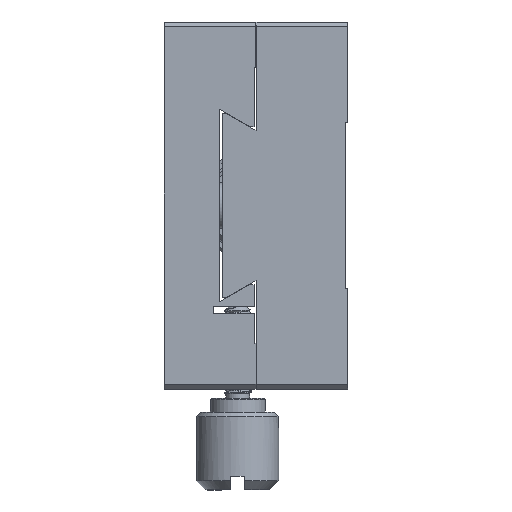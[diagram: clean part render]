
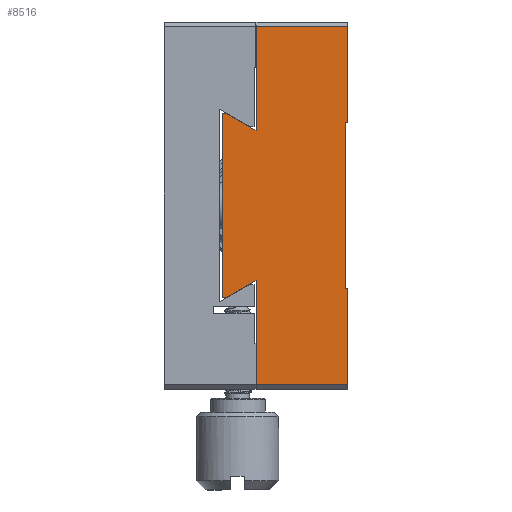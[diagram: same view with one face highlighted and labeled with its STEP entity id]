
A CAD part, left-side view. The second image highlights one B-rep face of the part: STEP entity #8516.
In plain terms, the highlighted planar face has unit normal (-1, 0, 0).
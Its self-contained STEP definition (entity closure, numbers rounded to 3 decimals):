
#95 = EDGE_CURVE ( 'NONE', #38840, #33420, #33971, .T. ) ;
#431 = VERTEX_POINT ( 'NONE', #36296 ) ;
#1727 = VERTEX_POINT ( 'NONE', #78016 ) ;
#1936 = ORIENTED_EDGE ( 'NONE', *, *, #9239, .F. ) ;
#2634 = DIRECTION ( 'NONE',  ( 0., -1., 0. ) ) ;
#2691 = CARTESIAN_POINT ( 'NONE',  ( -15.678, 47.056, 80.355 ) ) ;
#2862 = EDGE_CURVE ( 'NONE', #23326, #26054, #69943, .T. ) ;
#4754 = LINE ( 'NONE', #22639, #32809 ) ;
#5031 = CARTESIAN_POINT ( 'NONE',  ( -15.678, 60.756, 50.328 ) ) ;
#5414 = VECTOR ( 'NONE', #8645, 1000. ) ;
#5467 = EDGE_CURVE ( 'NONE', #46890, #74505, #49356, .T. ) ;
#6494 = VECTOR ( 'NONE', #8255, 1000. ) ;
#6893 = CARTESIAN_POINT ( 'NONE',  ( -15.678, 47.056, 40.855 ) ) ;
#8117 = DIRECTION ( 'NONE',  ( 0., 0., -1. ) ) ;
#8255 = DIRECTION ( 'NONE',  ( 0., -1., 0. ) ) ;
#8516 = ADVANCED_FACE ( 'NONE', ( #11186 ), #72626, .F. ) ;
#8645 = DIRECTION ( 'NONE',  ( 0., 1., 0. ) ) ;
#9239 = EDGE_CURVE ( 'NONE', #74566, #1727, #57409, .T. ) ;
#9386 = VERTEX_POINT ( 'NONE', #5031 ) ;
#11186 = FACE_OUTER_BOUND ( 'NONE', #33351, .T. ) ;
#13234 = CARTESIAN_POINT ( 'NONE',  ( -15.678, 60.236, 70.382 ) ) ;
#14065 = CARTESIAN_POINT ( 'NONE',  ( -15.678, 57.056, 68.545 ) ) ;
#14860 = LINE ( 'NONE', #63979, #34353 ) ;
#14920 = EDGE_CURVE ( 'NONE', #38840, #9386, #50820, .T. ) ;
#15261 = DIRECTION ( 'NONE',  ( 0., 0., -1. ) ) ;
#15423 = CARTESIAN_POINT ( 'NONE',  ( -15.678, 57.056, 52.164 ) ) ;
#17422 = DIRECTION ( 'NONE',  ( 0., 1., 0. ) ) ;
#18138 = ORIENTED_EDGE ( 'NONE', *, *, #5467, .F. ) ;
#18367 = VECTOR ( 'NONE', #38967, 1000. ) ;
#18621 = ORIENTED_EDGE ( 'NONE', *, *, #44867, .T. ) ;
#18690 = EDGE_CURVE ( 'NONE', #26054, #33420, #14860, .T. ) ;
#20664 = CARTESIAN_POINT ( 'NONE',  ( -15.678, 57.056, 79.855 ) ) ;
#20973 = LINE ( 'NONE', #56216, #5414 ) ;
#21373 = CARTESIAN_POINT ( 'NONE',  ( -15.678, 47.356, 69.355 ) ) ;
#22639 = CARTESIAN_POINT ( 'NONE',  ( -15.678, 47.356, 69.355 ) ) ;
#23326 = VERTEX_POINT ( 'NONE', #20664 ) ;
#23358 = LINE ( 'NONE', #64192, #46144 ) ;
#23499 = DIRECTION ( 'NONE',  ( 1., 0., 0. ) ) ;
#23747 = AXIS2_PLACEMENT_3D ( 'NONE', #36553, #23499, #65880 ) ;
#23752 = EDGE_CURVE ( 'NONE', #33791, #1727, #38024, .T. ) ;
#23933 = LINE ( 'NONE', #58413, #75170 ) ;
#25068 = VECTOR ( 'NONE', #8117, 1000. ) ;
#26054 = VERTEX_POINT ( 'NONE', #14065 ) ;
#28634 = CARTESIAN_POINT ( 'NONE',  ( -15.678, 57.056, 52.164 ) ) ;
#28960 = DIRECTION ( 'NONE',  ( 0., 0., -1. ) ) ;
#30024 = ORIENTED_EDGE ( 'NONE', *, *, #18690, .T. ) ;
#31180 = LINE ( 'NONE', #43429, #25068 ) ;
#31376 = VECTOR ( 'NONE', #54926, 1000. ) ;
#32083 = ORIENTED_EDGE ( 'NONE', *, *, #61227, .T. ) ;
#32627 = VECTOR ( 'NONE', #36225, 1000. ) ;
#32809 = VECTOR ( 'NONE', #28960, 1000. ) ;
#33351 = EDGE_LOOP ( 'NONE', ( #40457, #18138, #69517, #70987, #1936, #53929, #75059, #30024, #37225, #54180, #35098, #18621, #64933, #32083 ) ) ;
#33420 = VERTEX_POINT ( 'NONE', #13234 ) ;
#33626 = VERTEX_POINT ( 'NONE', #28634 ) ;
#33651 = DIRECTION ( 'NONE',  ( 0., 0., -1. ) ) ;
#33791 = VERTEX_POINT ( 'NONE', #65863 ) ;
#33971 = LINE ( 'NONE', #63285, #76662 ) ;
#34353 = VECTOR ( 'NONE', #51694, 1000. ) ;
#35098 = ORIENTED_EDGE ( 'NONE', *, *, #52170, .F. ) ;
#35464 = EDGE_CURVE ( 'NONE', #74566, #23326, #23358, .T. ) ;
#36225 = DIRECTION ( 'NONE',  ( 0., -1., 0. ) ) ;
#36296 = CARTESIAN_POINT ( 'NONE',  ( -15.678, 60.236, 50.328 ) ) ;
#36553 = CARTESIAN_POINT ( 'NONE',  ( -15.678, 47.056, 80.355 ) ) ;
#36748 = VECTOR ( 'NONE', #33651, 1000. ) ;
#36922 = CARTESIAN_POINT ( 'NONE',  ( -15.678, 47.056, 51.355 ) ) ;
#37225 = ORIENTED_EDGE ( 'NONE', *, *, #95, .F. ) ;
#38024 = LINE ( 'NONE', #21373, #6494 ) ;
#38701 = EDGE_CURVE ( 'NONE', #33791, #46890, #4754, .T. ) ;
#38840 = VERTEX_POINT ( 'NONE', #65594 ) ;
#38967 = DIRECTION ( 'NONE',  ( 0., 0., -1. ) ) ;
#39243 = CARTESIAN_POINT ( 'NONE',  ( -15.678, 47.356, 51.355 ) ) ;
#40217 = DIRECTION ( 'NONE',  ( 0., 0., -1. ) ) ;
#40457 = ORIENTED_EDGE ( 'NONE', *, *, #50136, .F. ) ;
#41009 = CARTESIAN_POINT ( 'NONE',  ( -15.678, 47.056, 40.855 ) ) ;
#41791 = LINE ( 'NONE', #41009, #32627 ) ;
#42257 = CARTESIAN_POINT ( 'NONE',  ( -15.678, 47.356, 51.355 ) ) ;
#42578 = VERTEX_POINT ( 'NONE', #46303 ) ;
#43429 = CARTESIAN_POINT ( 'NONE',  ( -15.678, 47.056, 80.355 ) ) ;
#43451 = VERTEX_POINT ( 'NONE', #6893 ) ;
#44867 = EDGE_CURVE ( 'NONE', #431, #33626, #69714, .T. ) ;
#46144 = VECTOR ( 'NONE', #17422, 1000. ) ;
#46303 = CARTESIAN_POINT ( 'NONE',  ( -15.678, 57.056, 40.855 ) ) ;
#46890 = VERTEX_POINT ( 'NONE', #39243 ) ;
#49356 = LINE ( 'NONE', #42257, #31376 ) ;
#50136 = EDGE_CURVE ( 'NONE', #74505, #43451, #31180, .T. ) ;
#50820 = LINE ( 'NONE', #75024, #18367 ) ;
#51694 = DIRECTION ( 'NONE',  ( 0., 0.866, 0.5 ) ) ;
#52170 = EDGE_CURVE ( 'NONE', #431, #9386, #20973, .T. ) ;
#53043 = EDGE_CURVE ( 'NONE', #33626, #42578, #23933, .T. ) ;
#53182 = VECTOR ( 'NONE', #56239, 1000. ) ;
#53929 = ORIENTED_EDGE ( 'NONE', *, *, #35464, .T. ) ;
#54180 = ORIENTED_EDGE ( 'NONE', *, *, #14920, .T. ) ;
#54747 = CARTESIAN_POINT ( 'NONE',  ( -15.678, 47.056, 79.855 ) ) ;
#54926 = DIRECTION ( 'NONE',  ( 0., -1., 0. ) ) ;
#56216 = CARTESIAN_POINT ( 'NONE',  ( -15.678, 60.756, 50.328 ) ) ;
#56239 = DIRECTION ( 'NONE',  ( 0., -0.866, 0.5 ) ) ;
#57409 = LINE ( 'NONE', #2691, #36748 ) ;
#58413 = CARTESIAN_POINT ( 'NONE',  ( -15.678, 57.056, 80.355 ) ) ;
#61227 = EDGE_CURVE ( 'NONE', #42578, #43451, #41791, .T. ) ;
#62801 = CARTESIAN_POINT ( 'NONE',  ( -15.678, 57.056, 80.355 ) ) ;
#63285 = CARTESIAN_POINT ( 'NONE',  ( -15.678, 60.756, 70.382 ) ) ;
#63979 = CARTESIAN_POINT ( 'NONE',  ( -15.678, 61.056, 70.855 ) ) ;
#64192 = CARTESIAN_POINT ( 'NONE',  ( -15.678, 47.056, 79.855 ) ) ;
#64933 = ORIENTED_EDGE ( 'NONE', *, *, #53043, .T. ) ;
#65594 = CARTESIAN_POINT ( 'NONE',  ( -15.678, 60.756, 70.382 ) ) ;
#65863 = CARTESIAN_POINT ( 'NONE',  ( -15.678, 47.356, 69.355 ) ) ;
#65880 = DIRECTION ( 'NONE',  ( 0., 0., 1. ) ) ;
#69517 = ORIENTED_EDGE ( 'NONE', *, *, #38701, .F. ) ;
#69714 = LINE ( 'NONE', #15423, #53182 ) ;
#69943 = LINE ( 'NONE', #62801, #76617 ) ;
#70987 = ORIENTED_EDGE ( 'NONE', *, *, #23752, .T. ) ;
#72626 = PLANE ( 'NONE',  #23747 ) ;
#74505 = VERTEX_POINT ( 'NONE', #36922 ) ;
#74566 = VERTEX_POINT ( 'NONE', #54747 ) ;
#75024 = CARTESIAN_POINT ( 'NONE',  ( -15.678, 60.756, 49.855 ) ) ;
#75059 = ORIENTED_EDGE ( 'NONE', *, *, #2862, .T. ) ;
#75170 = VECTOR ( 'NONE', #40217, 1000. ) ;
#76617 = VECTOR ( 'NONE', #15261, 1000. ) ;
#76662 = VECTOR ( 'NONE', #2634, 1000. ) ;
#78016 = CARTESIAN_POINT ( 'NONE',  ( -15.678, 47.056, 69.355 ) ) ;
